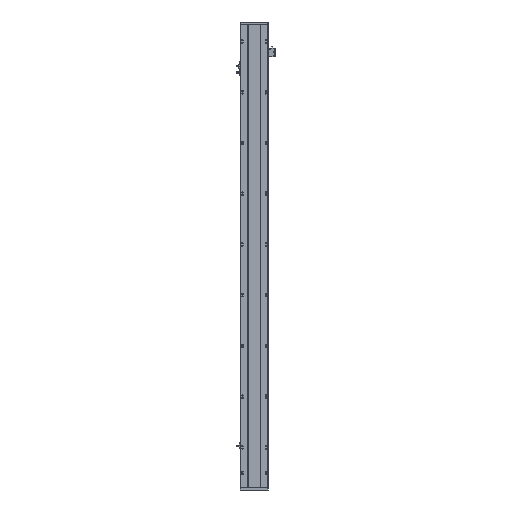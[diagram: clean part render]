
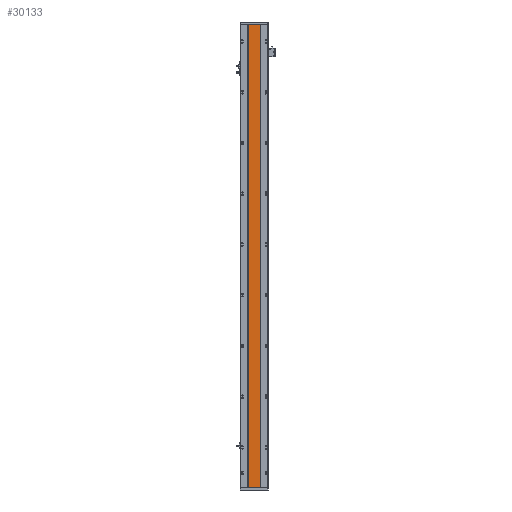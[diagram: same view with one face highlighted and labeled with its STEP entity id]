
A CAD part, front view. The second image highlights one B-rep face of the part: STEP entity #30133.
In plain terms, the highlighted planar face has unit normal (0, -1, 0).
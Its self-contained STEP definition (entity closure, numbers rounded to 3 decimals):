
#1401 = ORIENTED_EDGE ( 'NONE', *, *, #27128, .T. ) ;
#1610 = EDGE_CURVE ( 'NONE', #18094, #12206, #8028, .T. ) ;
#2152 = VECTOR ( 'NONE', #8215, 1000. ) ;
#3054 = DIRECTION ( 'NONE',  ( -1., 0., 0. ) ) ;
#3255 = CARTESIAN_POINT ( 'NONE',  ( 133.07, 115.96, 1972. ) ) ;
#3804 = VECTOR ( 'NONE', #14151, 1000. ) ;
#4418 = EDGE_CURVE ( 'NONE', #22669, #12206, #13380, .T. ) ;
#5273 = EDGE_CURVE ( 'NONE', #27012, #18094, #8386, .T. ) ;
#7305 = VECTOR ( 'NONE', #21424, 1000. ) ;
#8028 = LINE ( 'NONE', #21518, #7305 ) ;
#8215 = DIRECTION ( 'NONE',  ( 1., 0., 0. ) ) ;
#8386 = LINE ( 'NONE', #14536, #2152 ) ;
#9424 = FACE_OUTER_BOUND ( 'NONE', #22645, .T. ) ;
#9587 = ORIENTED_EDGE ( 'NONE', *, *, #1610, .F. ) ;
#9601 = LINE ( 'NONE', #3255, #16654 ) ;
#11481 = CARTESIAN_POINT ( 'NONE',  ( 183.063, 115.96, 1972. ) ) ;
#11799 = CARTESIAN_POINT ( 'NONE',  ( 0., 115.96, 0. ) ) ;
#12206 = VERTEX_POINT ( 'NONE', #25784 ) ;
#12529 = CARTESIAN_POINT ( 'NONE',  ( 0., 115.96, 1972. ) ) ;
#13380 = LINE ( 'NONE', #11799, #3804 ) ;
#14151 = DIRECTION ( 'NONE',  ( 1., 0., 0. ) ) ;
#14536 = CARTESIAN_POINT ( 'NONE',  ( 0., 115.96, 1972. ) ) ;
#16654 = VECTOR ( 'NONE', #26432, 1000. ) ;
#18094 = VERTEX_POINT ( 'NONE', #11481 ) ;
#18399 = CARTESIAN_POINT ( 'NONE',  ( 133.07, 115.96, 0. ) ) ;
#18776 = AXIS2_PLACEMENT_3D ( 'NONE', #12529, #24156, #3054 ) ;
#20438 = ORIENTED_EDGE ( 'NONE', *, *, #5273, .F. ) ;
#21424 = DIRECTION ( 'NONE',  ( 0., 0., -1. ) ) ;
#21518 = CARTESIAN_POINT ( 'NONE',  ( 183.063, 115.96, 1972. ) ) ;
#21890 = PLANE ( 'NONE',  #18776 ) ;
#22088 = CARTESIAN_POINT ( 'NONE',  ( 133.07, 115.96, 1972. ) ) ;
#22645 = EDGE_LOOP ( 'NONE', ( #24910, #9587, #20438, #1401 ) ) ;
#22669 = VERTEX_POINT ( 'NONE', #18399 ) ;
#24156 = DIRECTION ( 'NONE',  ( 0., 1., 0. ) ) ;
#24910 = ORIENTED_EDGE ( 'NONE', *, *, #4418, .T. ) ;
#25784 = CARTESIAN_POINT ( 'NONE',  ( 183.063, 115.96, 0. ) ) ;
#26432 = DIRECTION ( 'NONE',  ( 0., 0., -1. ) ) ;
#27012 = VERTEX_POINT ( 'NONE', #22088 ) ;
#27128 = EDGE_CURVE ( 'NONE', #27012, #22669, #9601, .T. ) ;
#30133 = ADVANCED_FACE ( 'NONE', ( #9424 ), #21890, .F. ) ;
